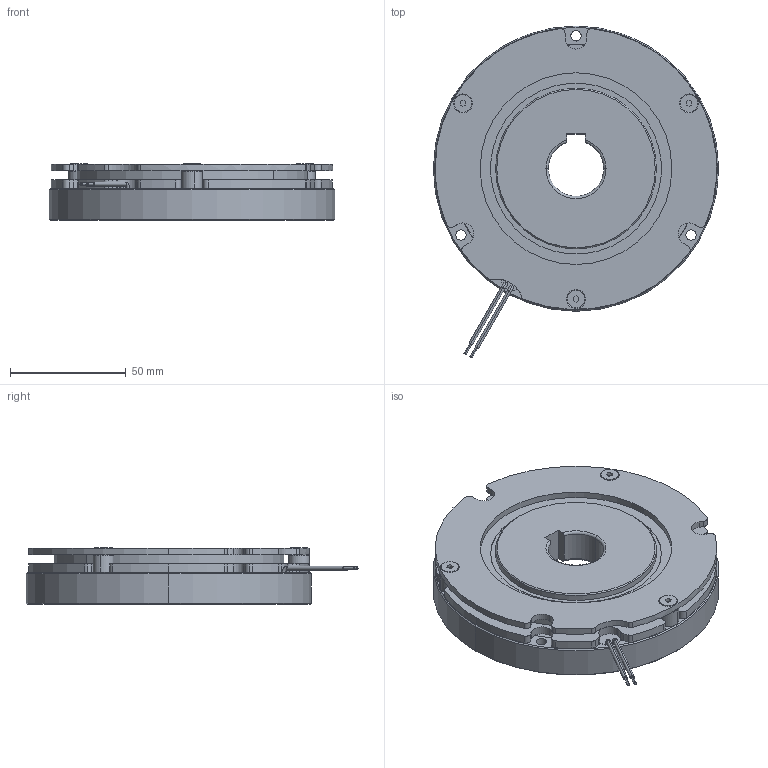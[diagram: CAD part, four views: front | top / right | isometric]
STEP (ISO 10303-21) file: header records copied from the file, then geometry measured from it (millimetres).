
FILE_DESCRIPTION (( 'STEP AP214' ), '1' );
FILE_NAME ('ÌÞÚ°·_BXR-10-20_A.STEP', '2017-08-08T09:51:37', ( 'MIKI' ), ( '' ), 'SwSTEP 2.0', 'SolidWorks 2012', '' );
FILE_SCHEMA (( 'AUTOMOTIVE_DESIGN' ));
Length unit declared in the file: millimetre
Products named in the file (1): 枌痚愷BXR-10-20_A
Bounding box: 123.5 x 143.73 x 24.54 mm (x, y, z)
Volume: 222106.4 mm3; surface area: 70681.6 mm2
Topology: 1 solids, 4 shells, 311 faces, 757 edges, 482 vertices
Faces by surface type: cylinder 163, plane 85, cone 49, torus 14
Entity records: 12794 total; most frequent: DIRECTION 1787, CARTESIAN_POINT 1593, ORIENTED_EDGE 1514, EDGE_CURVE 757, AXIS2_PLACEMENT_3D 724, VERTEX_POINT 482, CIRCLE 412, EDGE_LOOP 377
